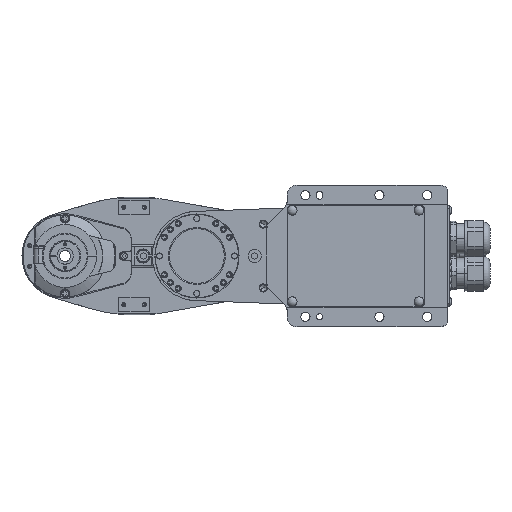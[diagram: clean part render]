
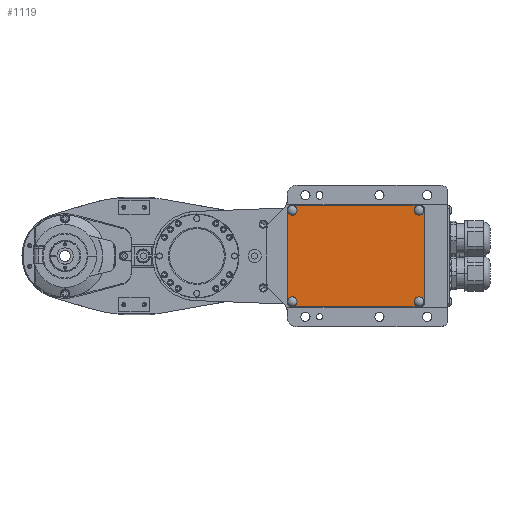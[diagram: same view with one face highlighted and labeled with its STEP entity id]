
A CAD part, front view. The second image highlights one B-rep face of the part: STEP entity #1119.
In plain terms, the highlighted planar face has unit normal (0, -1, 0).
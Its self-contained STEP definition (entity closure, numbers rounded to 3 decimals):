
#1119 = ADVANCED_FACE( '', ( #3905, #3906, #3907, #3908, #3909 ), #3910, .F. );
#3905 = FACE_BOUND( '', #8166, .T. );
#3906 = FACE_BOUND( '', #8167, .T. );
#3907 = FACE_BOUND( '', #8168, .T. );
#3908 = FACE_BOUND( '', #8169, .T. );
#3909 = FACE_OUTER_BOUND( '', #8170, .T. );
#3910 = PLANE( '', #8171 );
#8166 = EDGE_LOOP( '', ( #16302, #16303 ) );
#8167 = EDGE_LOOP( '', ( #16304, #16305 ) );
#8168 = EDGE_LOOP( '', ( #16306, #16307 ) );
#8169 = EDGE_LOOP( '', ( #16308, #16309 ) );
#8170 = EDGE_LOOP( '', ( #16310, #16311, #16312, #16313, #16314, #16315, #16316, #16317 ) );
#8171 = AXIS2_PLACEMENT_3D( '', #16318, #16319, #16320 );
#16302 = ORIENTED_EDGE( '', *, *, #27856, .T. );
#16303 = ORIENTED_EDGE( '', *, *, #27857, .T. );
#16304 = ORIENTED_EDGE( '', *, *, #27858, .T. );
#16305 = ORIENTED_EDGE( '', *, *, #27859, .T. );
#16306 = ORIENTED_EDGE( '', *, *, #27860, .T. );
#16307 = ORIENTED_EDGE( '', *, *, #27861, .T. );
#16308 = ORIENTED_EDGE( '', *, *, #27862, .T. );
#16309 = ORIENTED_EDGE( '', *, *, #27863, .T. );
#16310 = ORIENTED_EDGE( '', *, *, #27864, .F. );
#16311 = ORIENTED_EDGE( '', *, *, #27886, .F. );
#16312 = ORIENTED_EDGE( '', *, *, #27883, .F. );
#16313 = ORIENTED_EDGE( '', *, *, #27880, .F. );
#16314 = ORIENTED_EDGE( '', *, *, #27877, .F. );
#16315 = ORIENTED_EDGE( '', *, *, #27874, .F. );
#16316 = ORIENTED_EDGE( '', *, *, #27871, .F. );
#16317 = ORIENTED_EDGE( '', *, *, #27868, .F. );
#16318 = CARTESIAN_POINT( '', ( 0., 4., 0. ) );
#16319 = DIRECTION( '', ( 0., 1., 0. ) );
#16320 = DIRECTION( '', ( 0., 0., 1. ) );
#27856 = EDGE_CURVE( '', #33612, #33613, #33614, .T. );
#27857 = EDGE_CURVE( '', #33613, #33612, #33615, .T. );
#27858 = EDGE_CURVE( '', #33616, #33617, #33618, .T. );
#27859 = EDGE_CURVE( '', #33617, #33616, #33619, .T. );
#27860 = EDGE_CURVE( '', #33620, #33621, #33622, .T. );
#27861 = EDGE_CURVE( '', #33621, #33620, #33623, .T. );
#27862 = EDGE_CURVE( '', #33624, #33625, #33626, .T. );
#27863 = EDGE_CURVE( '', #33625, #33624, #33627, .T. );
#27864 = EDGE_CURVE( '', #33628, #33629, #33630, .T. );
#27868 = EDGE_CURVE( '', #33629, #33636, #33637, .T. );
#27871 = EDGE_CURVE( '', #33636, #33641, #33642, .T. );
#27874 = EDGE_CURVE( '', #33641, #33646, #33647, .T. );
#27877 = EDGE_CURVE( '', #33646, #33651, #33652, .T. );
#27880 = EDGE_CURVE( '', #33651, #33656, #33657, .T. );
#27883 = EDGE_CURVE( '', #33656, #33661, #33662, .T. );
#27886 = EDGE_CURVE( '', #33661, #33628, #33666, .T. );
#33612 = VERTEX_POINT( '', #42887 );
#33613 = VERTEX_POINT( '', #42888 );
#33614 = CIRCLE( '', #42889, 4.701 );
#33615 = CIRCLE( '', #42890, 4.701 );
#33616 = VERTEX_POINT( '', #42891 );
#33617 = VERTEX_POINT( '', #42892 );
#33618 = CIRCLE( '', #42893, 4.701 );
#33619 = CIRCLE( '', #42894, 4.701 );
#33620 = VERTEX_POINT( '', #42895 );
#33621 = VERTEX_POINT( '', #42896 );
#33622 = CIRCLE( '', #42897, 4.701 );
#33623 = CIRCLE( '', #42898, 4.701 );
#33624 = VERTEX_POINT( '', #42899 );
#33625 = VERTEX_POINT( '', #42900 );
#33626 = CIRCLE( '', #42901, 4.701 );
#33627 = CIRCLE( '', #42902, 4.701 );
#33628 = VERTEX_POINT( '', #42903 );
#33629 = VERTEX_POINT( '', #42904 );
#33630 = LINE( '', #42905, #42906 );
#33636 = VERTEX_POINT( '', #42915 );
#33637 = LINE( '', #42916, #42917 );
#33641 = VERTEX_POINT( '', #42923 );
#33642 = LINE( '', #42924, #42925 );
#33646 = VERTEX_POINT( '', #42931 );
#33647 = LINE( '', #42932, #42933 );
#33651 = VERTEX_POINT( '', #42939 );
#33652 = LINE( '', #42940, #42941 );
#33656 = VERTEX_POINT( '', #42947 );
#33657 = LINE( '', #42948, #42949 );
#33661 = VERTEX_POINT( '', #42955 );
#33662 = LINE( '', #42956, #42957 );
#33666 = LINE( '', #42963, #42964 );
#42887 = CARTESIAN_POINT( '', ( -26., 4., -49.701 ) );
#42888 = CARTESIAN_POINT( '', ( -26., 4., -40.299 ) );
#42889 = AXIS2_PLACEMENT_3D( '', #54791, #54792, #54793 );
#42890 = AXIS2_PLACEMENT_3D( '', #54794, #54795, #54796 );
#42891 = CARTESIAN_POINT( '', ( 99., 4., -49.701 ) );
#42892 = CARTESIAN_POINT( '', ( 99., 4., -40.299 ) );
#42893 = AXIS2_PLACEMENT_3D( '', #54797, #54798, #54799 );
#42894 = AXIS2_PLACEMENT_3D( '', #54800, #54801, #54802 );
#42895 = CARTESIAN_POINT( '', ( 99., 4., 40.299 ) );
#42896 = CARTESIAN_POINT( '', ( 99., 4., 49.701 ) );
#42897 = AXIS2_PLACEMENT_3D( '', #54803, #54804, #54805 );
#42898 = AXIS2_PLACEMENT_3D( '', #54806, #54807, #54808 );
#42899 = CARTESIAN_POINT( '', ( -26., 4., 40.299 ) );
#42900 = CARTESIAN_POINT( '', ( -26., 4., 49.701 ) );
#42901 = AXIS2_PLACEMENT_3D( '', #54809, #54810, #54811 );
#42902 = AXIS2_PLACEMENT_3D( '', #54812, #54813, #54814 );
#42903 = CARTESIAN_POINT( '', ( -31., 4., 48. ) );
#42904 = CARTESIAN_POINT( '', ( -29., 4., 50. ) );
#42905 = CARTESIAN_POINT( '', ( -31., 4., 48. ) );
#42906 = VECTOR( '', #54815, 1. );
#42915 = CARTESIAN_POINT( '', ( 102., 4., 50. ) );
#42916 = CARTESIAN_POINT( '', ( -29., 4., 50. ) );
#42917 = VECTOR( '', #54819, 1. );
#42923 = CARTESIAN_POINT( '', ( 104., 4., 48. ) );
#42924 = CARTESIAN_POINT( '', ( 102., 4., 50. ) );
#42925 = VECTOR( '', #54822, 1. );
#42931 = CARTESIAN_POINT( '', ( 104., 4., -48. ) );
#42932 = CARTESIAN_POINT( '', ( 104., 4., 48. ) );
#42933 = VECTOR( '', #54825, 1. );
#42939 = CARTESIAN_POINT( '', ( 102., 4., -50. ) );
#42940 = CARTESIAN_POINT( '', ( 104., 4., -48. ) );
#42941 = VECTOR( '', #54828, 1. );
#42947 = CARTESIAN_POINT( '', ( -29., 4., -50. ) );
#42948 = CARTESIAN_POINT( '', ( 102., 4., -50. ) );
#42949 = VECTOR( '', #54831, 1. );
#42955 = CARTESIAN_POINT( '', ( -31., 4., -48. ) );
#42956 = CARTESIAN_POINT( '', ( -29., 4., -50. ) );
#42957 = VECTOR( '', #54834, 1. );
#42963 = CARTESIAN_POINT( '', ( -31., 4., -48. ) );
#42964 = VECTOR( '', #54837, 1. );
#54791 = CARTESIAN_POINT( '', ( -26., 4., -45. ) );
#54792 = DIRECTION( '', ( 0., 1., 0. ) );
#54793 = DIRECTION( '', ( 0., 0., 1. ) );
#54794 = CARTESIAN_POINT( '', ( -26., 4., -45. ) );
#54795 = DIRECTION( '', ( 0., 1., 0. ) );
#54796 = DIRECTION( '', ( 0., 0., 1. ) );
#54797 = CARTESIAN_POINT( '', ( 99., 4., -45. ) );
#54798 = DIRECTION( '', ( 0., 1., 0. ) );
#54799 = DIRECTION( '', ( 0., 0., 1. ) );
#54800 = CARTESIAN_POINT( '', ( 99., 4., -45. ) );
#54801 = DIRECTION( '', ( 0., 1., 0. ) );
#54802 = DIRECTION( '', ( 0., 0., 1. ) );
#54803 = CARTESIAN_POINT( '', ( 99., 4., 45. ) );
#54804 = DIRECTION( '', ( 0., 1., 0. ) );
#54805 = DIRECTION( '', ( 0., 0., 1. ) );
#54806 = CARTESIAN_POINT( '', ( 99., 4., 45. ) );
#54807 = DIRECTION( '', ( 0., 1., 0. ) );
#54808 = DIRECTION( '', ( 0., 0., 1. ) );
#54809 = CARTESIAN_POINT( '', ( -26., 4., 45. ) );
#54810 = DIRECTION( '', ( 0., 1., 0. ) );
#54811 = DIRECTION( '', ( 0., 0., 1. ) );
#54812 = CARTESIAN_POINT( '', ( -26., 4., 45. ) );
#54813 = DIRECTION( '', ( 0., 1., 0. ) );
#54814 = DIRECTION( '', ( 0., 0., 1. ) );
#54815 = DIRECTION( '', ( 0.707, 0., 0.707 ) );
#54819 = DIRECTION( '', ( 1., 0., 0. ) );
#54822 = DIRECTION( '', ( 0.707, 0., -0.707 ) );
#54825 = DIRECTION( '', ( 0., 0., -1. ) );
#54828 = DIRECTION( '', ( -0.707, 0., -0.707 ) );
#54831 = DIRECTION( '', ( -1., 0., 0. ) );
#54834 = DIRECTION( '', ( -0.707, 0., 0.707 ) );
#54837 = DIRECTION( '', ( 0., 0., 1. ) );
